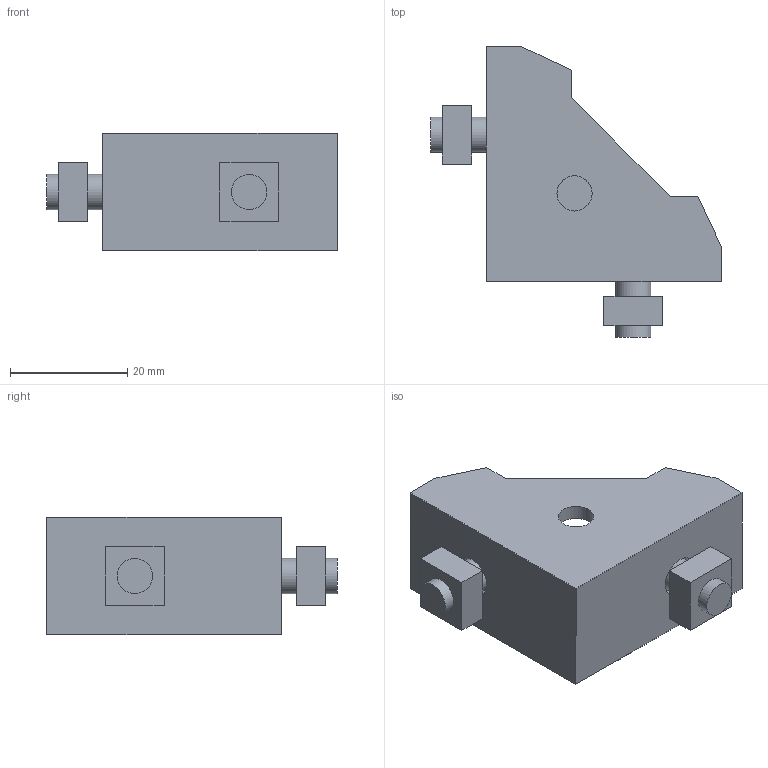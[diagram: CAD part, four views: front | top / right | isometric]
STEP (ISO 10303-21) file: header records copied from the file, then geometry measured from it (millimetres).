
FILE_DESCRIPTION((''),'2;1');
FILE_NAME('C:\Documents and Settings\AMS8\デスクトップ\2013from西村作業用\【3D】M6アルミブラケット\ABLD-30-6-T\ABLD-30-6-T2.stp','2013-08-20T13:28:04',('AMS8'),(''),'Autodesk Inventor 2008','Autodesk Inventor 2008','');
FILE_SCHEMA(('AUTOMOTIVE_DESIGN { 1 0 10303 214 1 1 1 1 }'));
Length unit declared in the file: millimetre
Products named in the file (6): ABLD-30-6-T2; NONE; NONEA; NONEB; NONEC; NONED
Assembly tree (5 placements, depth 2):
  ABLD-30-6-T2
    NONE
    NONEA
    NONEB
    NONEC
    NONED
Bounding box: 49.5 x 49.5 x 20 mm (x, y, z)
Volume: 14611.8 mm3; surface area: 9131.6 mm2
Topology: 5 solids, 5 shells, 51 faces, 107 edges, 70 vertices
Faces by surface type: plane 40, cylinder 11
Full cylindrical faces by diameter (mm): 6 x5, 7 x2, 10 x2, 13 x2
Entity records: 1488 total; most frequent: DIRECTION 242, CARTESIAN_POINT 228, ORIENTED_EDGE 192, EDGE_CURVE 96, AXIS2_PLACEMENT_3D 84, EDGE_LOOP 76, VECTOR 74, LINE 74
